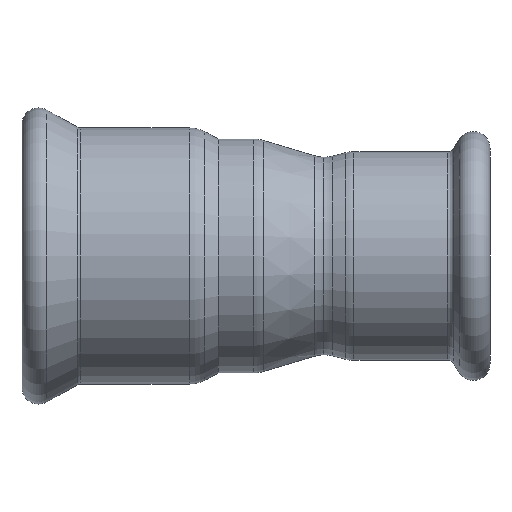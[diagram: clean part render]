
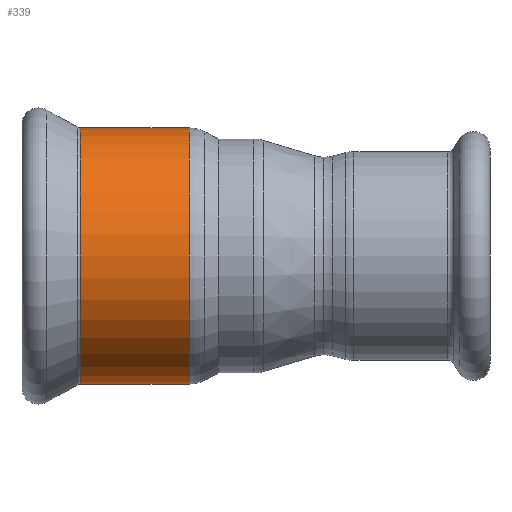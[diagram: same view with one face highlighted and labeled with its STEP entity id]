
A CAD part, front view. The second image highlights one B-rep face of the part: STEP entity #339.
In plain terms, the highlighted cylindrical face has radius 19.15 mm (diameter 38.3 mm), a partial arc.
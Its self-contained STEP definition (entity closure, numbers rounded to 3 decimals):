
#18 = EDGE_CURVE ( 'NONE', #2960, #2627, #2553, .T. ) ;
#210 = EDGE_CURVE ( 'NONE', #573, #2960, #1902, .T. ) ;
#325 = DIRECTION ( 'NONE',  ( -1., 0., 0. ) ) ;
#339 = ADVANCED_FACE ( 'NONE', ( #2907 ), #1035, .T. ) ;
#365 = DIRECTION ( 'NONE',  ( 0., 0., -1. ) ) ;
#412 = DIRECTION ( 'NONE',  ( -1., 0., 0. ) ) ;
#469 = CARTESIAN_POINT ( 'NONE',  ( -28.546, 0., 19.15 ) ) ;
#495 = VECTOR ( 'NONE', #325, 1000. ) ;
#573 = VERTEX_POINT ( 'NONE', #2277 ) ;
#592 = CARTESIAN_POINT ( 'NONE',  ( -44.93, 0., 0. ) ) ;
#659 = LINE ( 'NONE', #1594, #2332 ) ;
#840 = DIRECTION ( 'NONE',  ( -1., 0., 0. ) ) ;
#846 = AXIS2_PLACEMENT_3D ( 'NONE', #2186, #840, #365 ) ;
#847 = DIRECTION ( 'NONE',  ( 1., 0., 0. ) ) ;
#963 = ORIENTED_EDGE ( 'NONE', *, *, #1291, .F. ) ;
#1035 = CYLINDRICAL_SURFACE ( 'NONE', #1382, 19.15 ) ;
#1069 = CARTESIAN_POINT ( 'NONE',  ( -28.546, 0., 0. ) ) ;
#1265 = EDGE_LOOP ( 'NONE', ( #963, #2804, #1856, #2620 ) ) ;
#1287 = DIRECTION ( 'NONE',  ( -1., 0., 0. ) ) ;
#1291 = EDGE_CURVE ( 'NONE', #2199, #2627, #659, .T. ) ;
#1382 = AXIS2_PLACEMENT_3D ( 'NONE', #592, #1287, #2205 ) ;
#1519 = DIRECTION ( 'NONE',  ( 0., 0., 1. ) ) ;
#1594 = CARTESIAN_POINT ( 'NONE',  ( -44.93, 0., -19.15 ) ) ;
#1694 = CARTESIAN_POINT ( 'NONE',  ( -44.93, 0., 19.15 ) ) ;
#1856 = ORIENTED_EDGE ( 'NONE', *, *, #210, .T. ) ;
#1902 = LINE ( 'NONE', #1694, #495 ) ;
#2017 = CARTESIAN_POINT ( 'NONE',  ( -12.262, 0., -19.15 ) ) ;
#2023 = CIRCLE ( 'NONE', #846, 19.15 ) ;
#2154 = AXIS2_PLACEMENT_3D ( 'NONE', #1069, #847, #1519 ) ;
#2186 = CARTESIAN_POINT ( 'NONE',  ( -12.262, 0., 0. ) ) ;
#2199 = VERTEX_POINT ( 'NONE', #2017 ) ;
#2205 = DIRECTION ( 'NONE',  ( 0., 0., 1. ) ) ;
#2277 = CARTESIAN_POINT ( 'NONE',  ( -12.262, 0., 19.15 ) ) ;
#2332 = VECTOR ( 'NONE', #412, 1000. ) ;
#2553 = CIRCLE ( 'NONE', #2154, 19.15 ) ;
#2620 = ORIENTED_EDGE ( 'NONE', *, *, #18, .T. ) ;
#2627 = VERTEX_POINT ( 'NONE', #2924 ) ;
#2714 = EDGE_CURVE ( 'NONE', #2199, #573, #2023, .T. ) ;
#2804 = ORIENTED_EDGE ( 'NONE', *, *, #2714, .T. ) ;
#2907 = FACE_OUTER_BOUND ( 'NONE', #1265, .T. ) ;
#2924 = CARTESIAN_POINT ( 'NONE',  ( -28.546, 0., -19.15 ) ) ;
#2960 = VERTEX_POINT ( 'NONE', #469 ) ;
